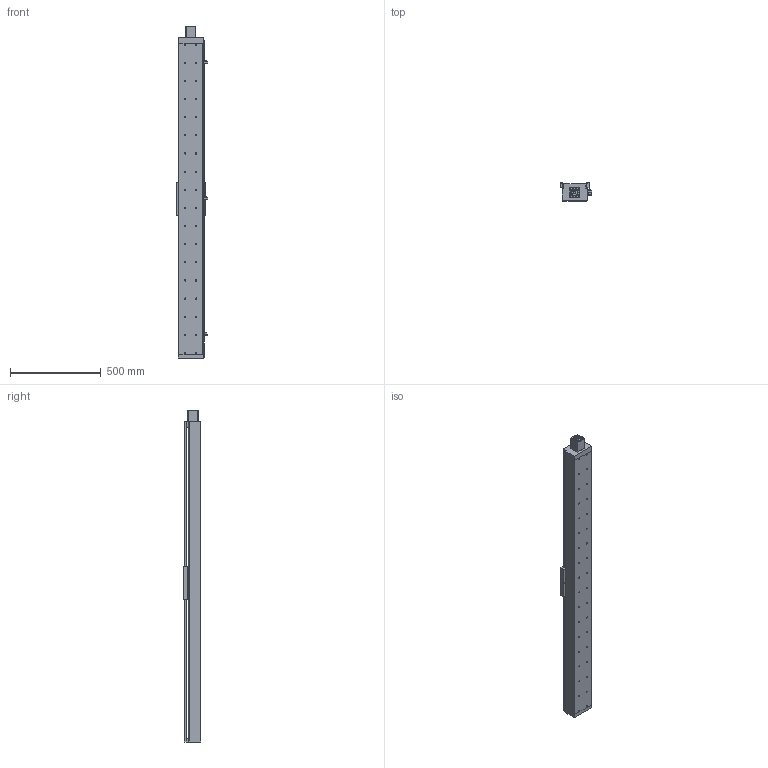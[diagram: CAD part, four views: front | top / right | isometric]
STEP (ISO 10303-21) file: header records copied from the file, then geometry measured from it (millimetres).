
FILE_DESCRIPTION((''),'2;1');
FILE_NAME('E:\libraries\UIA actuator library 2009\standard actuator\UIA136 ball screw 25\UIA136R15NDC-_ _ _-R25_ _, stp file 27Apr16\UIA136R15NDC-1500-R25_ _-M60-P13-C10-S.stp','2016-04-28T17:41:36',('h029'),(''),'Autodesk Inventor 11','Autodesk Inventor 11','');
FILE_SCHEMA(('AUTOMOTIVE_DESIGN { 1 0 10303 214 1 1 1 1 }'));
Length unit declared in the file: millimetre
Products named in the file (10): UIA136R15NDC-1500; UIA136R15NDC-body; motor mount F60; SOH-32C; SOH-32C-3; SOH-32C-1; SOH-32C-2; Carriage; Sensor Switch; sensor rail
Assembly tree (9 placements, depth 3):
  UIA136R15NDC-1500
    UIA136R15NDC-body
    motor mount F60
    SOH-32C
      SOH-32C-3
      SOH-32C-1
      SOH-32C-2
    Carriage
    Sensor Switch
    sensor rail
Bounding box: 174.5 x 98 x 1830 mm (x, y, z)
Volume: 6444737.6 mm3; surface area: 1855331.3 mm2
Topology: 8 solids, 8 shells, 568 faces, 1463 edges, 958 vertices
Faces by surface type: plane 324, bspline 194, cylinder 46, cone 4
Full cylindrical faces by diameter (mm): 2.459 x2, 3.242 x2, 4.5 x2, 7 x4, 7.5 x2, 14 x3, 17 x1, 32 x3, 37 x1, 50.3 x1, 50.5 x1
Entity records: 18580 total; most frequent: CARTESIAN_POINT 5684, ORIENTED_EDGE 2456, DIRECTION 2410, EDGE_CURVE 1228, EDGE_LOOP 912, VERTEX_POINT 894, VECTOR 816, LINE 816
